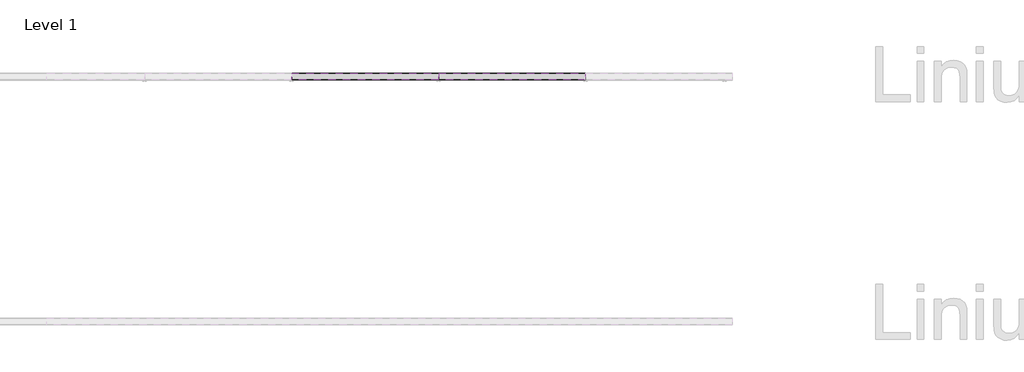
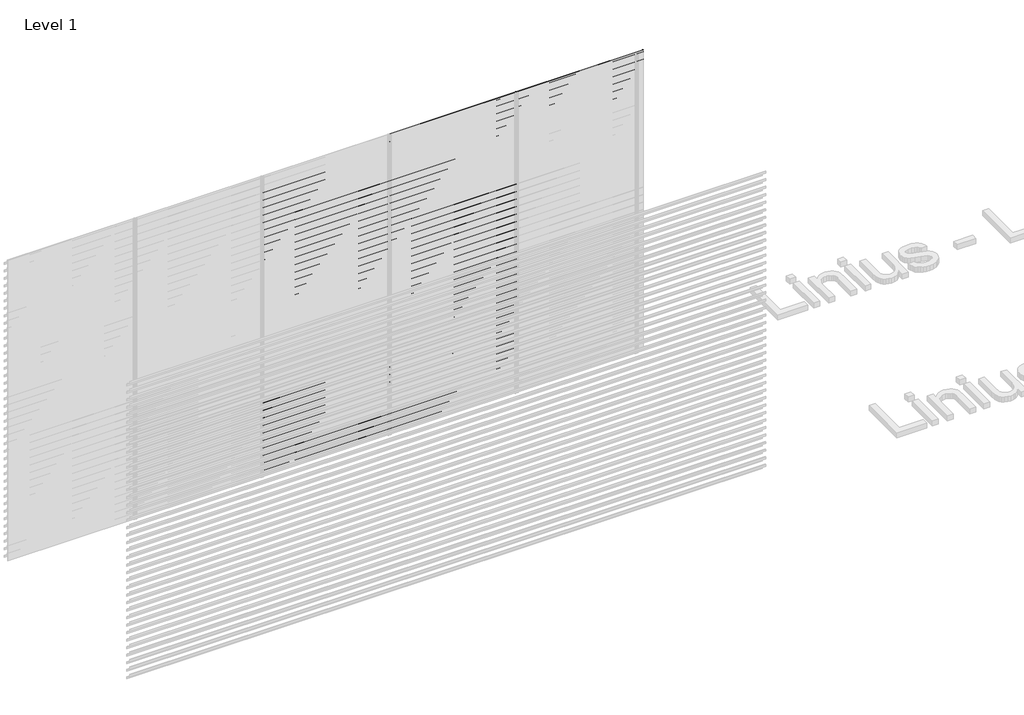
# One storey, part 53 of 55: 84 proxies.
"""IFC4 building model written with IfcOpenShell, lengths in millimetres."""

from ifc_helpers import new_model, si_unit, frame, origin, place, context, project, spatial, polyline, outline, extrude, element, save

model = new_model("IFC4")

# Units and contexts
model_context = context("Model", 3, world=origin())
ifc_project = project(units=[si_unit("LENGTHUNIT", "METRE", prefix="MILLI")], contexts=[model_context])

# Site, building, storey
site = spatial("IfcSite", under=ifc_project)
building = spatial("IfcBuilding", under=site)
storey = spatial("IfcBuildingStorey", under=building, Name="Level 1", Elevation=0.0)

# Proxies
placement = place(None, origin())
element("IfcBuildingElementProxy", 1, Name="Wall Sweeps", at=placement, inside=storey, context=model_context, shape_type="SweptSolid", body=[
    extrude(outline(polyline([(74035.8040136, 2793.5), (74035.8040136, 2773.5), (74034.5540136, 2774.2216933), (74034.5540136, 2792.7872415), (73980.8040136, 2830.3158044), (73980.8040136, 2850.0), (73982.0540136, 2850.0), (73982.0540136, 2831.0285629), (74035.8040136, 2793.5)])), frame((2866.6208097, 0.0, 0.0), z_axis=(1.0, 0.0, 0.0), x_axis=(0.0, 1.0, 0.0)), (0.0, 0.0, 1.0), 1199.9999999),
])
element("IfcBuildingElementProxy", 2, Name="Wall Sweeps", at=placement, inside=storey, context=model_context, shape_type="SweptSolid", body=[
    extrude(outline(polyline([(74035.8040136, 2718.5), (74035.8040136, 2698.5), (74034.5540136, 2699.2216933), (74034.5540136, 2717.7872415), (73980.8040136, 2755.3158044), (73980.8040136, 2775.0), (73982.0540136, 2775.0), (73982.0540136, 2756.0285629), (74035.8040136, 2718.5)])), frame((2866.6208097, 0.0, 0.0), z_axis=(1.0, 0.0, 0.0), x_axis=(0.0, 1.0, 0.0)), (0.0, 0.0, 1.0), 1199.9999999),
])
element("IfcBuildingElementProxy", 3, Name="Wall Sweeps", at=placement, inside=storey, context=model_context, shape_type="SweptSolid", body=[
    extrude(outline(polyline([(74035.8040136, 2643.5), (74035.8040136, 2623.5), (74034.5540136, 2624.2216933), (74034.5540136, 2642.7872415), (73980.8040136, 2680.3158044), (73980.8040136, 2700.0), (73982.0540136, 2700.0), (73982.0540136, 2681.0285629), (74035.8040136, 2643.5)])), frame((2866.6208097, 0.0, 0.0), z_axis=(1.0, 0.0, 0.0), x_axis=(0.0, 1.0, 0.0)), (0.0, 0.0, 1.0), 1199.9999999),
])
element("IfcBuildingElementProxy", 4, Name="Wall Sweeps", at=placement, inside=storey, context=model_context, shape_type="SweptSolid", body=[
    extrude(outline(polyline([(74035.8040136, 2568.5), (74035.8040136, 2548.5), (74034.5540136, 2549.2216933), (74034.5540136, 2567.7872415), (73980.8040136, 2605.3158044), (73980.8040136, 2625.0), (73982.0540136, 2625.0), (73982.0540136, 2606.0285629), (74035.8040136, 2568.5)])), frame((2866.6208097, 0.0, 0.0), z_axis=(1.0, 0.0, 0.0), x_axis=(0.0, 1.0, 0.0)), (0.0, 0.0, 1.0), 1199.9999999),
])
element("IfcBuildingElementProxy", 5, Name="Wall Sweeps", at=placement, inside=storey, context=model_context, shape_type="SweptSolid", body=[
    extrude(outline(polyline([(74035.8040136, 2493.5), (74035.8040136, 2473.5), (74034.5540136, 2474.2216933), (74034.5540136, 2492.7872415), (73980.8040136, 2530.3158044), (73980.8040136, 2550.0), (73982.0540136, 2550.0), (73982.0540136, 2531.0285629), (74035.8040136, 2493.5)])), frame((2866.6208097, 0.0, 0.0), z_axis=(1.0, 0.0, 0.0), x_axis=(0.0, 1.0, 0.0)), (0.0, 0.0, 1.0), 1199.9999999),
])
element("IfcBuildingElementProxy", 6, Name="Wall Sweeps", at=placement, inside=storey, context=model_context, shape_type="SweptSolid", body=[
    extrude(outline(polyline([(74035.8040136, 2418.5), (74035.8040136, 2398.5), (74034.5540136, 2399.2216933), (74034.5540136, 2417.7872415), (73980.8040136, 2455.3158044), (73980.8040136, 2475.0), (73982.0540136, 2475.0), (73982.0540136, 2456.0285629), (74035.8040136, 2418.5)])), frame((2866.6208097, 0.0, 0.0), z_axis=(1.0, 0.0, 0.0), x_axis=(0.0, 1.0, 0.0)), (0.0, 0.0, 1.0), 1199.9999999),
])
element("IfcBuildingElementProxy", 7, Name="Wall Sweeps", at=placement, inside=storey, context=model_context, shape_type="SweptSolid", body=[
    extrude(outline(polyline([(74035.8040136, 2343.5), (74035.8040136, 2323.5), (74034.5540136, 2324.2216933), (74034.5540136, 2342.7872415), (73980.8040136, 2380.3158044), (73980.8040136, 2400.0), (73982.0540136, 2400.0), (73982.0540136, 2381.0285629), (74035.8040136, 2343.5)])), frame((2866.6208097, 0.0, 0.0), z_axis=(1.0, 0.0, 0.0), x_axis=(0.0, 1.0, 0.0)), (0.0, 0.0, 1.0), 1199.9999999),
])
element("IfcBuildingElementProxy", 8, Name="Wall Sweeps", at=placement, inside=storey, context=model_context, shape_type="SweptSolid", body=[
    extrude(outline(polyline([(74035.8040136, 2268.5), (74035.8040136, 2248.5), (74034.5540136, 2249.2216933), (74034.5540136, 2267.7872415), (73980.8040136, 2305.3158044), (73980.8040136, 2325.0), (73982.0540136, 2325.0), (73982.0540136, 2306.0285629), (74035.8040136, 2268.5)])), frame((2866.6208097, 0.0, 0.0), z_axis=(1.0, 0.0, 0.0), x_axis=(0.0, 1.0, 0.0)), (0.0, 0.0, 1.0), 1199.9999999),
])
element("IfcBuildingElementProxy", 9, Name="Wall Sweeps", at=placement, inside=storey, context=model_context, shape_type="SweptSolid", body=[
    extrude(outline(polyline([(74035.8040136, 2193.5), (74035.8040136, 2173.5), (74034.5540136, 2174.2216933), (74034.5540136, 2192.7872415), (73980.8040136, 2230.3158044), (73980.8040136, 2250.0), (73982.0540136, 2250.0), (73982.0540136, 2231.0285629), (74035.8040136, 2193.5)])), frame((2866.6208097, 0.0, 0.0), z_axis=(1.0, 0.0, 0.0), x_axis=(0.0, 1.0, 0.0)), (0.0, 0.0, 1.0), 1199.9999999),
])
element("IfcBuildingElementProxy", 10, Name="Wall Sweeps", at=placement, inside=storey, context=model_context, shape_type="SweptSolid", body=[
    extrude(outline(polyline([(74035.8040136, 2118.5), (74035.8040136, 2098.5), (74034.5540136, 2099.2216933), (74034.5540136, 2117.7872415), (73980.8040136, 2155.3158044), (73980.8040136, 2175.0), (73982.0540136, 2175.0), (73982.0540136, 2156.0285629), (74035.8040136, 2118.5)])), frame((2866.6208097, 0.0, 0.0), z_axis=(1.0, 0.0, 0.0), x_axis=(0.0, 1.0, 0.0)), (0.0, 0.0, 1.0), 1199.9999999),
])
element("IfcBuildingElementProxy", 11, Name="Wall Sweeps", at=placement, inside=storey, context=model_context, shape_type="SweptSolid", body=[
    extrude(outline(polyline([(74035.8040136, 2043.5), (74035.8040136, 2023.5), (74034.5540136, 2024.2216933), (74034.5540136, 2042.7872415), (73980.8040136, 2080.3158044), (73980.8040136, 2100.0), (73982.0540136, 2100.0), (73982.0540136, 2081.0285629), (74035.8040136, 2043.5)])), frame((2866.6208097, 0.0, 0.0), z_axis=(1.0, 0.0, 0.0), x_axis=(0.0, 1.0, 0.0)), (0.0, 0.0, 1.0), 1199.9999999),
])
element("IfcBuildingElementProxy", 12, Name="Wall Sweeps", at=placement, inside=storey, context=model_context, shape_type="SweptSolid", body=[
    extrude(outline(polyline([(74035.8040136, 1968.5), (74035.8040136, 1948.5), (74034.5540136, 1949.2216933), (74034.5540136, 1967.7872415), (73980.8040136, 2005.3158044), (73980.8040136, 2025.0), (73982.0540136, 2025.0), (73982.0540136, 2006.0285629), (74035.8040136, 1968.5)])), frame((2866.6208097, 0.0, 0.0), z_axis=(1.0, 0.0, 0.0), x_axis=(0.0, 1.0, 0.0)), (0.0, 0.0, 1.0), 1199.9999999),
])
element("IfcBuildingElementProxy", 13, Name="Wall Sweeps", at=placement, inside=storey, context=model_context, shape_type="SweptSolid", body=[
    extrude(outline(polyline([(74035.8040136, 1893.5), (74035.8040136, 1873.5), (74034.5540136, 1874.2216933), (74034.5540136, 1892.7872415), (73980.8040136, 1930.3158044), (73980.8040136, 1950.0), (73982.0540136, 1950.0), (73982.0540136, 1931.0285629), (74035.8040136, 1893.5)])), frame((2866.6208097, 0.0, 0.0), z_axis=(1.0, 0.0, 0.0), x_axis=(0.0, 1.0, 0.0)), (0.0, 0.0, 1.0), 1199.9999999),
])
element("IfcBuildingElementProxy", 14, Name="Wall Sweeps", at=placement, inside=storey, context=model_context, shape_type="SweptSolid", body=[
    extrude(outline(polyline([(74035.8040136, 1818.5), (74035.8040136, 1798.5), (74034.5540136, 1799.2216933), (74034.5540136, 1817.7872415), (73980.8040136, 1855.3158044), (73980.8040136, 1875.0), (73982.0540136, 1875.0), (73982.0540136, 1856.0285629), (74035.8040136, 1818.5)])), frame((2866.6208097, 0.0, 0.0), z_axis=(1.0, 0.0, 0.0), x_axis=(0.0, 1.0, 0.0)), (0.0, 0.0, 1.0), 1199.9999999),
])
element("IfcBuildingElementProxy", 15, Name="Wall Sweeps", at=placement, inside=storey, context=model_context, shape_type="SweptSolid", body=[
    extrude(outline(polyline([(74035.8040136, 1743.5), (74035.8040136, 1723.5), (74034.5540136, 1724.2216933), (74034.5540136, 1742.7872415), (73980.8040136, 1780.3158044), (73980.8040136, 1800.0), (73982.0540136, 1800.0), (73982.0540136, 1781.0285629), (74035.8040136, 1743.5)])), frame((2866.6208097, 0.0, 0.0), z_axis=(1.0, 0.0, 0.0), x_axis=(0.0, 1.0, 0.0)), (0.0, 0.0, 1.0), 1199.9999999),
])
element("IfcBuildingElementProxy", 16, Name="Wall Sweeps", at=placement, inside=storey, context=model_context, shape_type="SweptSolid", body=[
    extrude(outline(polyline([(74035.8040136, 1668.5), (74035.8040136, 1648.5), (74034.5540136, 1649.2216933), (74034.5540136, 1667.7872415), (73980.8040136, 1705.3158044), (73980.8040136, 1725.0), (73982.0540136, 1725.0), (73982.0540136, 1706.0285629), (74035.8040136, 1668.5)])), frame((2866.6208097, 0.0, 0.0), z_axis=(1.0, 0.0, 0.0), x_axis=(0.0, 1.0, 0.0)), (0.0, 0.0, 1.0), 1199.9999999),
])
element("IfcBuildingElementProxy", 17, Name="Wall Sweeps", at=placement, inside=storey, context=model_context, shape_type="SweptSolid", body=[
    extrude(outline(polyline([(74035.8040136, 1593.5), (74035.8040136, 1573.5), (74034.5540136, 1574.2216933), (74034.5540136, 1592.7872415), (73980.8040136, 1630.3158044), (73980.8040136, 1650.0), (73982.0540136, 1650.0), (73982.0540136, 1631.0285629), (74035.8040136, 1593.5)])), frame((2866.6208097, 0.0, 0.0), z_axis=(1.0, 0.0, 0.0), x_axis=(0.0, 1.0, 0.0)), (0.0, 0.0, 1.0), 1199.9999999),
])
element("IfcBuildingElementProxy", 18, Name="Wall Sweeps", at=placement, inside=storey, context=model_context, shape_type="SweptSolid", body=[
    extrude(outline(polyline([(74035.8040136, 1518.5), (74035.8040136, 1498.5), (74034.5540136, 1499.2216933), (74034.5540136, 1517.7872415), (73980.8040136, 1555.3158044), (73980.8040136, 1575.0), (73982.0540136, 1575.0), (73982.0540136, 1556.0285629), (74035.8040136, 1518.5)])), frame((2866.6208097, 0.0, 0.0), z_axis=(1.0, 0.0, 0.0), x_axis=(0.0, 1.0, 0.0)), (0.0, 0.0, 1.0), 1199.9999999),
])
element("IfcBuildingElementProxy", 19, Name="Wall Sweeps", at=placement, inside=storey, context=model_context, shape_type="SweptSolid", body=[
    extrude(outline(polyline([(74035.8040136, 1443.5), (74035.8040136, 1423.5), (74034.5540136, 1424.2216933), (74034.5540136, 1442.7872415), (73980.8040136, 1480.3158044), (73980.8040136, 1500.0), (73982.0540136, 1500.0), (73982.0540136, 1481.0285629), (74035.8040136, 1443.5)])), frame((2866.6208097, 0.0, 0.0), z_axis=(1.0, 0.0, 0.0), x_axis=(0.0, 1.0, 0.0)), (0.0, 0.0, 1.0), 1199.9999999),
])
element("IfcBuildingElementProxy", 20, Name="Wall Sweeps", at=placement, inside=storey, context=model_context, shape_type="SweptSolid", body=[
    extrude(outline(polyline([(74035.8040136, 1368.5), (74035.8040136, 1348.5), (74034.5540136, 1349.2216933), (74034.5540136, 1367.7872415), (73980.8040136, 1405.3158044), (73980.8040136, 1425.0), (73982.0540136, 1425.0), (73982.0540136, 1406.0285629), (74035.8040136, 1368.5)])), frame((2866.6208097, 0.0, 0.0), z_axis=(1.0, 0.0, 0.0), x_axis=(0.0, 1.0, 0.0)), (0.0, 0.0, 1.0), 1199.9999999),
])
element("IfcBuildingElementProxy", 21, Name="Wall Sweeps", at=placement, inside=storey, context=model_context, shape_type="SweptSolid", body=[
    extrude(outline(polyline([(74035.8040136, 1293.5), (74035.8040136, 1273.5), (74034.5540136, 1274.2216933), (74034.5540136, 1292.7872415), (73980.8040136, 1330.3158044), (73980.8040136, 1350.0), (73982.0540136, 1350.0), (73982.0540136, 1331.0285629), (74035.8040136, 1293.5)])), frame((2866.6208097, 0.0, 0.0), z_axis=(1.0, 0.0, 0.0), x_axis=(0.0, 1.0, 0.0)), (0.0, 0.0, 1.0), 1199.9999999),
])
element("IfcBuildingElementProxy", 22, Name="Wall Sweeps", at=placement, inside=storey, context=model_context, shape_type="SweptSolid", body=[
    extrude(outline(polyline([(74035.8040136, 1218.5), (74035.8040136, 1198.5), (74034.5540136, 1199.2216933), (74034.5540136, 1217.7872415), (73980.8040136, 1255.3158044), (73980.8040136, 1275.0), (73982.0540136, 1275.0), (73982.0540136, 1256.0285629), (74035.8040136, 1218.5)])), frame((2866.6208097, 0.0, 0.0), z_axis=(1.0, 0.0, 0.0), x_axis=(0.0, 1.0, 0.0)), (0.0, 0.0, 1.0), 1199.9999999),
])
element("IfcBuildingElementProxy", 23, Name="Wall Sweeps", at=placement, inside=storey, context=model_context, shape_type="SweptSolid", body=[
    extrude(outline(polyline([(74035.8040136, 1143.5), (74035.8040136, 1123.5), (74034.5540136, 1124.2216933), (74034.5540136, 1142.7872415), (73980.8040136, 1180.3158044), (73980.8040136, 1200.0), (73982.0540136, 1200.0), (73982.0540136, 1181.0285629), (74035.8040136, 1143.5)])), frame((2866.6208097, 0.0, 0.0), z_axis=(1.0, 0.0, 0.0), x_axis=(0.0, 1.0, 0.0)), (0.0, 0.0, 1.0), 1199.9999999),
])
element("IfcBuildingElementProxy", 24, Name="Wall Sweeps", at=placement, inside=storey, context=model_context, shape_type="SweptSolid", body=[
    extrude(outline(polyline([(74035.8040136, 1068.5), (74035.8040136, 1048.5), (74034.5540136, 1049.2216933), (74034.5540136, 1067.7872415), (73980.8040136, 1105.3158044), (73980.8040136, 1125.0), (73982.0540136, 1125.0), (73982.0540136, 1106.0285629), (74035.8040136, 1068.5)])), frame((2866.6208097, 0.0, 0.0), z_axis=(1.0, 0.0, 0.0), x_axis=(0.0, 1.0, 0.0)), (0.0, 0.0, 1.0), 1199.9999999),
])
element("IfcBuildingElementProxy", 25, Name="Wall Sweeps", at=placement, inside=storey, context=model_context, shape_type="SweptSolid", body=[
    extrude(outline(polyline([(74035.8040136, 993.5), (74035.8040136, 973.5), (74034.5540136, 974.2216933), (74034.5540136, 992.7872415), (73980.8040136, 1030.3158044), (73980.8040136, 1050.0), (73982.0540136, 1050.0), (73982.0540136, 1031.0285629), (74035.8040136, 993.5)])), frame((2866.6208097, 0.0, 0.0), z_axis=(1.0, 0.0, 0.0), x_axis=(0.0, 1.0, 0.0)), (0.0, 0.0, 1.0), 1199.9999999),
])
element("IfcBuildingElementProxy", 26, Name="Wall Sweeps", at=placement, inside=storey, context=model_context, shape_type="SweptSolid", body=[
    extrude(outline(polyline([(74035.8040136, 918.5), (74035.8040136, 898.5), (74034.5540136, 899.2216933), (74034.5540136, 917.7872415), (73980.8040136, 955.3158044), (73980.8040136, 975.0), (73982.0540136, 975.0), (73982.0540136, 956.0285629), (74035.8040136, 918.5)])), frame((2866.6208097, 0.0, 0.0), z_axis=(1.0, 0.0, 0.0), x_axis=(0.0, 1.0, 0.0)), (0.0, 0.0, 1.0), 1199.9999999),
])
element("IfcBuildingElementProxy", 27, Name="Wall Sweeps", at=placement, inside=storey, context=model_context, shape_type="SweptSolid", body=[
    extrude(outline(polyline([(74035.8040136, 843.5), (74035.8040136, 823.5), (74034.5540136, 824.2216933), (74034.5540136, 842.7872415), (73980.8040136, 880.3158044), (73980.8040136, 900.0), (73982.0540136, 900.0), (73982.0540136, 881.0285629), (74035.8040136, 843.5)])), frame((2866.6208097, 0.0, 0.0), z_axis=(1.0, 0.0, 0.0), x_axis=(0.0, 1.0, 0.0)), (0.0, 0.0, 1.0), 1199.9999999),
])
element("IfcBuildingElementProxy", 28, Name="Wall Sweeps", at=placement, inside=storey, context=model_context, shape_type="SweptSolid", body=[
    extrude(outline(polyline([(74035.8040136, 768.5), (74035.8040136, 748.5), (74034.5540136, 749.2216933), (74034.5540136, 767.7872415), (73980.8040136, 805.3158044), (73980.8040136, 825.0), (73982.0540136, 825.0), (73982.0540136, 806.0285629), (74035.8040136, 768.5)])), frame((2866.6208097, 0.0, 0.0), z_axis=(1.0, 0.0, 0.0), x_axis=(0.0, 1.0, 0.0)), (0.0, 0.0, 1.0), 1199.9999999),
])
element("IfcBuildingElementProxy", 29, Name="Wall Sweeps", at=placement, inside=storey, context=model_context, shape_type="SweptSolid", body=[
    extrude(outline(polyline([(74035.8040136, 693.5), (74035.8040136, 673.5), (74034.5540136, 674.2216933), (74034.5540136, 692.7872415), (73980.8040136, 730.3158044), (73980.8040136, 750.0), (73982.0540136, 750.0), (73982.0540136, 731.0285629), (74035.8040136, 693.5)])), frame((2866.6208097, 0.0, 0.0), z_axis=(1.0, 0.0, 0.0), x_axis=(0.0, 1.0, 0.0)), (0.0, 0.0, 1.0), 1199.9999999),
])
element("IfcBuildingElementProxy", 30, Name="Wall Sweeps", at=placement, inside=storey, context=model_context, shape_type="SweptSolid", body=[
    extrude(outline(polyline([(74035.8040136, 618.5), (74035.8040136, 598.5), (74034.5540136, 599.2216933), (74034.5540136, 617.7872415), (73980.8040136, 655.3158044), (73980.8040136, 675.0), (73982.0540136, 675.0), (73982.0540136, 656.0285629), (74035.8040136, 618.5)])), frame((2866.6208097, 0.0, 0.0), z_axis=(1.0, 0.0, 0.0), x_axis=(0.0, 1.0, 0.0)), (0.0, 0.0, 1.0), 1199.9999999),
])
element("IfcBuildingElementProxy", 31, Name="Wall Sweeps", at=placement, inside=storey, context=model_context, shape_type="SweptSolid", body=[
    extrude(outline(polyline([(74035.8040136, 543.5), (74035.8040136, 523.5), (74034.5540136, 524.2216933), (74034.5540136, 542.7872415), (73980.8040136, 580.3158044), (73980.8040136, 600.0), (73982.0540136, 600.0), (73982.0540136, 581.0285629), (74035.8040136, 543.5)])), frame((2866.6208097, 0.0, 0.0), z_axis=(1.0, 0.0, 0.0), x_axis=(0.0, 1.0, 0.0)), (0.0, 0.0, 1.0), 1199.9999999),
])
element("IfcBuildingElementProxy", 32, Name="Wall Sweeps", at=placement, inside=storey, context=model_context, shape_type="SweptSolid", body=[
    extrude(outline(polyline([(74035.8040136, 468.5), (74035.8040136, 448.5), (74034.5540136, 449.2216933), (74034.5540136, 467.7872415), (73980.8040136, 505.3158044), (73980.8040136, 525.0), (73982.0540136, 525.0), (73982.0540136, 506.0285629), (74035.8040136, 468.5)])), frame((2866.6208097, 0.0, 0.0), z_axis=(1.0, 0.0, 0.0), x_axis=(0.0, 1.0, 0.0)), (0.0, 0.0, 1.0), 1199.9999999),
])
element("IfcBuildingElementProxy", 33, Name="Wall Sweeps", at=placement, inside=storey, context=model_context, shape_type="SweptSolid", body=[
    extrude(outline(polyline([(74035.8040136, 393.5), (74035.8040136, 373.5), (74034.5540136, 374.2216933), (74034.5540136, 392.7872415), (73980.8040136, 430.3158044), (73980.8040136, 450.0), (73982.0540136, 450.0), (73982.0540136, 431.0285629), (74035.8040136, 393.5)])), frame((2866.6208097, 0.0, 0.0), z_axis=(1.0, 0.0, 0.0), x_axis=(0.0, 1.0, 0.0)), (0.0, 0.0, 1.0), 1199.9999999),
])
element("IfcBuildingElementProxy", 34, Name="Wall Sweeps", at=placement, inside=storey, context=model_context, shape_type="SweptSolid", body=[
    extrude(outline(polyline([(74035.8040136, 318.5), (74035.8040136, 298.5), (74034.5540136, 299.2216933), (74034.5540136, 317.7872415), (73980.8040136, 355.3158044), (73980.8040136, 375.0), (73982.0540136, 375.0), (73982.0540136, 356.0285629), (74035.8040136, 318.5)])), frame((2866.6208097, 0.0, 0.0), z_axis=(1.0, 0.0, 0.0), x_axis=(0.0, 1.0, 0.0)), (0.0, 0.0, 1.0), 1199.9999999),
])
element("IfcBuildingElementProxy", 35, Name="Wall Sweeps", at=placement, inside=storey, context=model_context, shape_type="SweptSolid", body=[
    extrude(outline(polyline([(74035.8040136, 243.5), (74035.8040136, 223.5), (74034.5540136, 224.2216933), (74034.5540136, 242.7872415), (73980.8040136, 280.3158044), (73980.8040136, 300.0), (73982.0540136, 300.0), (73982.0540136, 281.0285629), (74035.8040136, 243.5)])), frame((2866.6208097, 0.0, 0.0), z_axis=(1.0, 0.0, 0.0), x_axis=(0.0, 1.0, 0.0)), (0.0, 0.0, 1.0), 1199.9999999),
])
element("IfcBuildingElementProxy", 36, Name="Wall Sweeps", at=placement, inside=storey, context=model_context, shape_type="SweptSolid", body=[
    extrude(outline(polyline([(74035.8040136, 168.5), (74035.8040136, 148.5), (74034.5540136, 149.2216933), (74034.5540136, 167.7872415), (73980.8040136, 205.3158044), (73980.8040136, 225.0), (73982.0540136, 225.0), (73982.0540136, 206.0285629), (74035.8040136, 168.5)])), frame((2866.6208097, 0.0, 0.0), z_axis=(1.0, 0.0, 0.0), x_axis=(0.0, 1.0, 0.0)), (0.0, 0.0, 1.0), 1199.9999999),
])
element("IfcBuildingElementProxy", 37, Name="Wall Sweeps", at=placement, inside=storey, context=model_context, shape_type="SweptSolid", body=[
    extrude(outline(polyline([(74035.8040136, 93.5), (74035.8040136, 73.5), (74034.5540136, 74.2216933), (74034.5540136, 92.7872415), (73980.8040136, 130.3158044), (73980.8040136, 150.0), (73982.0540136, 150.0), (73982.0540136, 131.0285629), (74035.8040136, 93.5)])), frame((2866.6208097, 0.0, 0.0), z_axis=(1.0, 0.0, 0.0), x_axis=(0.0, 1.0, 0.0)), (0.0, 0.0, 1.0), 1199.9999999),
])
element("IfcBuildingElementProxy", 38, Name="Wall Sweeps", at=placement, inside=storey, context=model_context, shape_type="SweptSolid", body=[
    extrude(outline(polyline([(74035.8040136, 18.5), (74035.8040136, -1.5), (74034.5540136, -0.7783067), (74034.5540136, 17.7872415), (73980.8040136, 55.3158044), (73980.8040136, 75.0), (73982.0540136, 75.0), (73982.0540136, 56.0285629), (74035.8040136, 18.5)])), frame((2866.6208097, 0.0, 0.0), z_axis=(1.0, 0.0, 0.0), x_axis=(0.0, 1.0, 0.0)), (0.0, 0.0, 1.0), 1199.9999999),
])
element("IfcBuildingElementProxy", 39, Name="Wall Sweeps", at=placement, inside=storey, context=model_context, shape_type="SweptSolid", body=[
    extrude(outline(polyline([(74035.8040136, 2943.5), (74035.8040136, 2923.5), (74034.5540136, 2924.2216933), (74034.5540136, 2942.7872415), (73980.8040136, 2980.3158044), (73980.8040136, 3000.0), (73982.0540136, 3000.0), (73982.0540136, 2981.0285629), (74035.8040136, 2943.5)])), frame((5266.6208095, 0.0, 0.0), z_axis=(1.0, 0.0, 0.0), x_axis=(0.0, 1.0, 0.0)), (0.0, 0.0, 1.0), 1200.0000002),
])
element("IfcBuildingElementProxy", 40, Name="Wall Sweeps", at=placement, inside=storey, context=model_context, shape_type="SweptSolid", body=[
    extrude(outline(polyline([(74035.8040136, 2868.5), (74035.8040136, 2848.5), (74034.5540136, 2849.2216933), (74034.5540136, 2867.7872415), (73980.8040136, 2905.3158044), (73980.8040136, 2925.0), (73982.0540136, 2925.0), (73982.0540136, 2906.0285629), (74035.8040136, 2868.5)])), frame((5266.6208095, 0.0, 0.0), z_axis=(1.0, 0.0, 0.0), x_axis=(0.0, 1.0, 0.0)), (0.0, 0.0, 1.0), 1200.0000002),
])
element("IfcBuildingElementProxy", 41, Name="Wall Sweeps", at=placement, inside=storey, context=model_context, shape_type="SweptSolid", body=[
    extrude(outline(polyline([(74035.8040136, 2793.5), (74035.8040136, 2773.5), (74034.5540136, 2774.2216933), (74034.5540136, 2792.7872415), (73980.8040136, 2830.3158044), (73980.8040136, 2850.0), (73982.0540136, 2850.0), (73982.0540136, 2831.0285629), (74035.8040136, 2793.5)])), frame((5266.6208095, 0.0, 0.0), z_axis=(1.0, 0.0, 0.0), x_axis=(0.0, 1.0, 0.0)), (0.0, 0.0, 1.0), 1200.0000002),
])
element("IfcBuildingElementProxy", 42, Name="Wall Sweeps", at=placement, inside=storey, context=model_context, shape_type="SweptSolid", body=[
    extrude(outline(polyline([(74035.8040136, 2718.5), (74035.8040136, 2698.5), (74034.5540136, 2699.2216933), (74034.5540136, 2717.7872415), (73980.8040136, 2755.3158044), (73980.8040136, 2775.0), (73982.0540136, 2775.0), (73982.0540136, 2756.0285629), (74035.8040136, 2718.5)])), frame((5266.6208095, 0.0, 0.0), z_axis=(1.0, 0.0, 0.0), x_axis=(0.0, 1.0, 0.0)), (0.0, 0.0, 1.0), 1200.0000002),
])
element("IfcBuildingElementProxy", 43, Name="Wall Sweeps", at=placement, inside=storey, context=model_context, shape_type="SweptSolid", body=[
    extrude(outline(polyline([(74035.8040136, 2643.5), (74035.8040136, 2623.5), (74034.5540136, 2624.2216933), (74034.5540136, 2642.7872415), (73980.8040136, 2680.3158044), (73980.8040136, 2700.0), (73982.0540136, 2700.0), (73982.0540136, 2681.0285629), (74035.8040136, 2643.5)])), frame((5266.6208095, 0.0, 0.0), z_axis=(1.0, 0.0, 0.0), x_axis=(0.0, 1.0, 0.0)), (0.0, 0.0, 1.0), 1200.0000002),
])
element("IfcBuildingElementProxy", 44, Name="Wall Sweeps", at=placement, inside=storey, context=model_context, shape_type="SweptSolid", body=[
    extrude(outline(polyline([(74035.8040136, 2568.5), (74035.8040136, 2548.5), (74034.5540136, 2549.2216933), (74034.5540136, 2567.7872415), (73980.8040136, 2605.3158044), (73980.8040136, 2625.0), (73982.0540136, 2625.0), (73982.0540136, 2606.0285629), (74035.8040136, 2568.5)])), frame((5266.6208095, 0.0, 0.0), z_axis=(1.0, 0.0, 0.0), x_axis=(0.0, 1.0, 0.0)), (0.0, 0.0, 1.0), 1200.0000002),
])
element("IfcBuildingElementProxy", 45, Name="Wall Sweeps", at=placement, inside=storey, context=model_context, shape_type="SweptSolid", body=[
    extrude(outline(polyline([(74035.8040136, 2943.5), (74035.8040136, 2923.5), (74034.5540136, 2924.2216933), (74034.5540136, 2942.7872415), (73980.8040136, 2980.3158044), (73980.8040136, 3000.0), (73982.0540136, 3000.0), (73982.0540136, 2981.0285629), (74035.8040136, 2943.5)])), frame((4066.6208096, 0.0, 0.0), z_axis=(1.0, 0.0, 0.0), x_axis=(0.0, 1.0, 0.0)), (0.0, 0.0, 1.0), 1199.9999999),
])
element("IfcBuildingElementProxy", 46, Name="Wall Sweeps", at=placement, inside=storey, context=model_context, shape_type="SweptSolid", body=[
    extrude(outline(polyline([(74035.8040136, 2868.5), (74035.8040136, 2848.5), (74034.5540136, 2849.2216933), (74034.5540136, 2867.7872415), (73980.8040136, 2905.3158044), (73980.8040136, 2925.0), (73982.0540136, 2925.0), (73982.0540136, 2906.0285629), (74035.8040136, 2868.5)])), frame((4066.6208096, 0.0, 0.0), z_axis=(1.0, 0.0, 0.0), x_axis=(0.0, 1.0, 0.0)), (0.0, 0.0, 1.0), 1199.9999999),
])
element("IfcBuildingElementProxy", 47, Name="Wall Sweeps", at=placement, inside=storey, context=model_context, shape_type="SweptSolid", body=[
    extrude(outline(polyline([(74035.8040136, 2793.5), (74035.8040136, 2773.5), (74034.5540136, 2774.2216933), (74034.5540136, 2792.7872415), (73980.8040136, 2830.3158044), (73980.8040136, 2850.0), (73982.0540136, 2850.0), (73982.0540136, 2831.0285629), (74035.8040136, 2793.5)])), frame((4066.6208096, 0.0, 0.0), z_axis=(1.0, 0.0, 0.0), x_axis=(0.0, 1.0, 0.0)), (0.0, 0.0, 1.0), 1199.9999999),
])
element("IfcBuildingElementProxy", 48, Name="Wall Sweeps", at=placement, inside=storey, context=model_context, shape_type="SweptSolid", body=[
    extrude(outline(polyline([(74035.8040136, 2718.5), (74035.8040136, 2698.5), (74034.5540136, 2699.2216933), (74034.5540136, 2717.7872415), (73980.8040136, 2755.3158044), (73980.8040136, 2775.0), (73982.0540136, 2775.0), (73982.0540136, 2756.0285629), (74035.8040136, 2718.5)])), frame((4066.6208096, 0.0, 0.0), z_axis=(1.0, 0.0, 0.0), x_axis=(0.0, 1.0, 0.0)), (0.0, 0.0, 1.0), 1199.9999999),
])
element("IfcBuildingElementProxy", 49, Name="Wall Sweeps", at=placement, inside=storey, context=model_context, shape_type="SweptSolid", body=[
    extrude(outline(polyline([(74035.8040136, 2643.5), (74035.8040136, 2623.5), (74034.5540136, 2624.2216933), (74034.5540136, 2642.7872415), (73980.8040136, 2680.3158044), (73980.8040136, 2700.0), (73982.0540136, 2700.0), (73982.0540136, 2681.0285629), (74035.8040136, 2643.5)])), frame((4066.6208096, 0.0, 0.0), z_axis=(1.0, 0.0, 0.0), x_axis=(0.0, 1.0, 0.0)), (0.0, 0.0, 1.0), 1199.9999999),
])
element("IfcBuildingElementProxy", 50, Name="Wall Sweeps", at=placement, inside=storey, context=model_context, shape_type="SweptSolid", body=[
    extrude(outline(polyline([(74035.8040136, 2568.5), (74035.8040136, 2548.5), (74034.5540136, 2549.2216933), (74034.5540136, 2567.7872415), (73980.8040136, 2605.3158044), (73980.8040136, 2625.0), (73982.0540136, 2625.0), (73982.0540136, 2606.0285629), (74035.8040136, 2568.5)])), frame((4066.6208096, 0.0, 0.0), z_axis=(1.0, 0.0, 0.0), x_axis=(0.0, 1.0, 0.0)), (0.0, 0.0, 1.0), 1199.9999999),
])
element("IfcBuildingElementProxy", 51, Name="Wall Sweeps", at=placement, inside=storey, context=model_context, shape_type="SweptSolid", body=[
    extrude(outline(polyline([(74035.8040136, 2493.5), (74035.8040136, 2473.5), (74034.5540136, 2474.2216933), (74034.5540136, 2492.7872415), (73980.8040136, 2530.3158044), (73980.8040136, 2550.0), (73982.0540136, 2550.0), (73982.0540136, 2531.0285629), (74035.8040136, 2493.5)])), frame((4066.6208096, 0.0, 0.0), z_axis=(1.0, 0.0, 0.0), x_axis=(0.0, 1.0, 0.0)), (0.0, 0.0, 1.0), 1199.9999999),
])
element("IfcBuildingElementProxy", 52, Name="Wall Sweeps", at=placement, inside=storey, context=model_context, shape_type="SweptSolid", body=[
    extrude(outline(polyline([(74035.8040136, 2418.5), (74035.8040136, 2398.5), (74034.5540136, 2399.2216933), (74034.5540136, 2417.7872415), (73980.8040136, 2455.3158044), (73980.8040136, 2475.0), (73982.0540136, 2475.0), (73982.0540136, 2456.0285629), (74035.8040136, 2418.5)])), frame((4066.6208096, 0.0, 0.0), z_axis=(1.0, 0.0, 0.0), x_axis=(0.0, 1.0, 0.0)), (0.0, 0.0, 1.0), 1199.9999999),
])
element("IfcBuildingElementProxy", 53, Name="Wall Sweeps", at=placement, inside=storey, context=model_context, shape_type="SweptSolid", body=[
    extrude(outline(polyline([(74035.8040136, 2343.5), (74035.8040136, 2323.5), (74034.5540136, 2324.2216933), (74034.5540136, 2342.7872415), (73980.8040136, 2380.3158044), (73980.8040136, 2400.0), (73982.0540136, 2400.0), (73982.0540136, 2381.0285629), (74035.8040136, 2343.5)])), frame((4066.6208096, 0.0, 0.0), z_axis=(1.0, 0.0, 0.0), x_axis=(0.0, 1.0, 0.0)), (0.0, 0.0, 1.0), 1199.9999999),
])
element("IfcBuildingElementProxy", 54, Name="Wall Sweeps", at=placement, inside=storey, context=model_context, shape_type="SweptSolid", body=[
    extrude(outline(polyline([(74035.8040136, 2268.5), (74035.8040136, 2248.5), (74034.5540136, 2249.2216933), (74034.5540136, 2267.7872415), (73980.8040136, 2305.3158044), (73980.8040136, 2325.0), (73982.0540136, 2325.0), (73982.0540136, 2306.0285629), (74035.8040136, 2268.5)])), frame((4066.6208096, 0.0, 0.0), z_axis=(1.0, 0.0, 0.0), x_axis=(0.0, 1.0, 0.0)), (0.0, 0.0, 1.0), 1199.9999999),
])
element("IfcBuildingElementProxy", 55, Name="Wall Sweeps", at=placement, inside=storey, context=model_context, shape_type="SweptSolid", body=[
    extrude(outline(polyline([(74035.8040136, 2193.5), (74035.8040136, 2173.5), (74034.5540136, 2174.2216933), (74034.5540136, 2192.7872415), (73980.8040136, 2230.3158044), (73980.8040136, 2250.0), (73982.0540136, 2250.0), (73982.0540136, 2231.0285629), (74035.8040136, 2193.5)])), frame((4066.6208096, 0.0, 0.0), z_axis=(1.0, 0.0, 0.0), x_axis=(0.0, 1.0, 0.0)), (0.0, 0.0, 1.0), 1199.9999999),
])
element("IfcBuildingElementProxy", 56, Name="Wall Sweeps", at=placement, inside=storey, context=model_context, shape_type="SweptSolid", body=[
    extrude(outline(polyline([(74035.8040136, 2118.5), (74035.8040136, 2098.5), (74034.5540136, 2099.2216933), (74034.5540136, 2117.7872415), (73980.8040136, 2155.3158044), (73980.8040136, 2175.0), (73982.0540136, 2175.0), (73982.0540136, 2156.0285629), (74035.8040136, 2118.5)])), frame((4066.6208096, 0.0, 0.0), z_axis=(1.0, 0.0, 0.0), x_axis=(0.0, 1.0, 0.0)), (0.0, 0.0, 1.0), 1199.9999999),
])
element("IfcBuildingElementProxy", 57, Name="Wall Sweeps", at=placement, inside=storey, context=model_context, shape_type="SweptSolid", body=[
    extrude(outline(polyline([(74035.8040136, 2043.5), (74035.8040136, 2023.5), (74034.5540136, 2024.2216933), (74034.5540136, 2042.7872415), (73980.8040136, 2080.3158044), (73980.8040136, 2100.0), (73982.0540136, 2100.0), (73982.0540136, 2081.0285629), (74035.8040136, 2043.5)])), frame((4066.6208096, 0.0, 0.0), z_axis=(1.0, 0.0, 0.0), x_axis=(0.0, 1.0, 0.0)), (0.0, 0.0, 1.0), 1199.9999999),
])
element("IfcBuildingElementProxy", 58, Name="Wall Sweeps", at=placement, inside=storey, context=model_context, shape_type="SweptSolid", body=[
    extrude(outline(polyline([(74035.8040136, 1968.5), (74035.8040136, 1948.5), (74034.5540136, 1949.2216933), (74034.5540136, 1967.7872415), (73980.8040136, 2005.3158044), (73980.8040136, 2025.0), (73982.0540136, 2025.0), (73982.0540136, 2006.0285629), (74035.8040136, 1968.5)])), frame((4066.6208096, 0.0, 0.0), z_axis=(1.0, 0.0, 0.0), x_axis=(0.0, 1.0, 0.0)), (0.0, 0.0, 1.0), 1199.9999999),
])
element("IfcBuildingElementProxy", 59, Name="Wall Sweeps", at=placement, inside=storey, context=model_context, shape_type="SweptSolid", body=[
    extrude(outline(polyline([(74035.8040136, 1893.5), (74035.8040136, 1873.5), (74034.5540136, 1874.2216933), (74034.5540136, 1892.7872415), (73980.8040136, 1930.3158044), (73980.8040136, 1950.0), (73982.0540136, 1950.0), (73982.0540136, 1931.0285629), (74035.8040136, 1893.5)])), frame((4066.6208096, 0.0, 0.0), z_axis=(1.0, 0.0, 0.0), x_axis=(0.0, 1.0, 0.0)), (0.0, 0.0, 1.0), 1199.9999999),
])
element("IfcBuildingElementProxy", 60, Name="Wall Sweeps", at=placement, inside=storey, context=model_context, shape_type="SweptSolid", body=[
    extrude(outline(polyline([(74035.8040136, 1818.5), (74035.8040136, 1798.5), (74034.5540136, 1799.2216933), (74034.5540136, 1817.7872415), (73980.8040136, 1855.3158044), (73980.8040136, 1875.0), (73982.0540136, 1875.0), (73982.0540136, 1856.0285629), (74035.8040136, 1818.5)])), frame((4066.6208096, 0.0, 0.0), z_axis=(1.0, 0.0, 0.0), x_axis=(0.0, 1.0, 0.0)), (0.0, 0.0, 1.0), 1199.9999999),
])
element("IfcBuildingElementProxy", 61, Name="Wall Sweeps", at=placement, inside=storey, context=model_context, shape_type="SweptSolid", body=[
    extrude(outline(polyline([(74035.8040136, 1743.5), (74035.8040136, 1723.5), (74034.5540136, 1724.2216933), (74034.5540136, 1742.7872415), (73980.8040136, 1780.3158044), (73980.8040136, 1800.0), (73982.0540136, 1800.0), (73982.0540136, 1781.0285629), (74035.8040136, 1743.5)])), frame((4066.6208096, 0.0, 0.0), z_axis=(1.0, 0.0, 0.0), x_axis=(0.0, 1.0, 0.0)), (0.0, 0.0, 1.0), 1199.9999999),
])
element("IfcBuildingElementProxy", 62, Name="Wall Sweeps", at=placement, inside=storey, context=model_context, shape_type="SweptSolid", body=[
    extrude(outline(polyline([(74035.8040136, 1668.5), (74035.8040136, 1648.5), (74034.5540136, 1649.2216933), (74034.5540136, 1667.7872415), (73980.8040136, 1705.3158044), (73980.8040136, 1725.0), (73982.0540136, 1725.0), (73982.0540136, 1706.0285629), (74035.8040136, 1668.5)])), frame((4066.6208096, 0.0, 0.0), z_axis=(1.0, 0.0, 0.0), x_axis=(0.0, 1.0, 0.0)), (0.0, 0.0, 1.0), 1199.9999999),
])
element("IfcBuildingElementProxy", 63, Name="Wall Sweeps", at=placement, inside=storey, context=model_context, shape_type="SweptSolid", body=[
    extrude(outline(polyline([(74035.8040136, 1593.5), (74035.8040136, 1573.5), (74034.5540136, 1574.2216933), (74034.5540136, 1592.7872415), (73980.8040136, 1630.3158044), (73980.8040136, 1650.0), (73982.0540136, 1650.0), (73982.0540136, 1631.0285629), (74035.8040136, 1593.5)])), frame((4066.6208096, 0.0, 0.0), z_axis=(1.0, 0.0, 0.0), x_axis=(0.0, 1.0, 0.0)), (0.0, 0.0, 1.0), 1199.9999999),
])
element("IfcBuildingElementProxy", 64, Name="Wall Sweeps", at=placement, inside=storey, context=model_context, shape_type="SweptSolid", body=[
    extrude(outline(polyline([(74035.8040136, 1518.5), (74035.8040136, 1498.5), (74034.5540136, 1499.2216933), (74034.5540136, 1517.7872415), (73980.8040136, 1555.3158044), (73980.8040136, 1575.0), (73982.0540136, 1575.0), (73982.0540136, 1556.0285629), (74035.8040136, 1518.5)])), frame((4066.6208096, 0.0, 0.0), z_axis=(1.0, 0.0, 0.0), x_axis=(0.0, 1.0, 0.0)), (0.0, 0.0, 1.0), 1199.9999999),
])
element("IfcBuildingElementProxy", 65, Name="Wall Sweeps", at=placement, inside=storey, context=model_context, shape_type="SweptSolid", body=[
    extrude(outline(polyline([(74035.8040136, 1443.5), (74035.8040136, 1423.5), (74034.5540136, 1424.2216933), (74034.5540136, 1442.7872415), (73980.8040136, 1480.3158044), (73980.8040136, 1500.0), (73982.0540136, 1500.0), (73982.0540136, 1481.0285629), (74035.8040136, 1443.5)])), frame((4066.6208096, 0.0, 0.0), z_axis=(1.0, 0.0, 0.0), x_axis=(0.0, 1.0, 0.0)), (0.0, 0.0, 1.0), 1199.9999999),
])
element("IfcBuildingElementProxy", 66, Name="Wall Sweeps", at=placement, inside=storey, context=model_context, shape_type="SweptSolid", body=[
    extrude(outline(polyline([(74035.8040136, 1368.5), (74035.8040136, 1348.5), (74034.5540136, 1349.2216933), (74034.5540136, 1367.7872415), (73980.8040136, 1405.3158044), (73980.8040136, 1425.0), (73982.0540136, 1425.0), (73982.0540136, 1406.0285629), (74035.8040136, 1368.5)])), frame((4066.6208096, 0.0, 0.0), z_axis=(1.0, 0.0, 0.0), x_axis=(0.0, 1.0, 0.0)), (0.0, 0.0, 1.0), 1199.9999999),
])
element("IfcBuildingElementProxy", 67, Name="Wall Sweeps", at=placement, inside=storey, context=model_context, shape_type="SweptSolid", body=[
    extrude(outline(polyline([(74035.8040136, 1293.5), (74035.8040136, 1273.5), (74034.5540136, 1274.2216933), (74034.5540136, 1292.7872415), (73980.8040136, 1330.3158044), (73980.8040136, 1350.0), (73982.0540136, 1350.0), (73982.0540136, 1331.0285629), (74035.8040136, 1293.5)])), frame((4066.6208096, 0.0, 0.0), z_axis=(1.0, 0.0, 0.0), x_axis=(0.0, 1.0, 0.0)), (0.0, 0.0, 1.0), 1199.9999999),
])
element("IfcBuildingElementProxy", 68, Name="Wall Sweeps", at=placement, inside=storey, context=model_context, shape_type="SweptSolid", body=[
    extrude(outline(polyline([(74035.8040136, 1218.5), (74035.8040136, 1198.5), (74034.5540136, 1199.2216933), (74034.5540136, 1217.7872415), (73980.8040136, 1255.3158044), (73980.8040136, 1275.0), (73982.0540136, 1275.0), (73982.0540136, 1256.0285629), (74035.8040136, 1218.5)])), frame((4066.6208096, 0.0, 0.0), z_axis=(1.0, 0.0, 0.0), x_axis=(0.0, 1.0, 0.0)), (0.0, 0.0, 1.0), 1199.9999999),
])
element("IfcBuildingElementProxy", 69, Name="Wall Sweeps", at=placement, inside=storey, context=model_context, shape_type="SweptSolid", body=[
    extrude(outline(polyline([(74035.8040136, 1143.5), (74035.8040136, 1123.5), (74034.5540136, 1124.2216933), (74034.5540136, 1142.7872415), (73980.8040136, 1180.3158044), (73980.8040136, 1200.0), (73982.0540136, 1200.0), (73982.0540136, 1181.0285629), (74035.8040136, 1143.5)])), frame((4066.6208096, 0.0, 0.0), z_axis=(1.0, 0.0, 0.0), x_axis=(0.0, 1.0, 0.0)), (0.0, 0.0, 1.0), 1199.9999999),
])
element("IfcBuildingElementProxy", 70, Name="Wall Sweeps", at=placement, inside=storey, context=model_context, shape_type="SweptSolid", body=[
    extrude(outline(polyline([(74035.8040136, 1068.5), (74035.8040136, 1048.5), (74034.5540136, 1049.2216933), (74034.5540136, 1067.7872415), (73980.8040136, 1105.3158044), (73980.8040136, 1125.0), (73982.0540136, 1125.0), (73982.0540136, 1106.0285629), (74035.8040136, 1068.5)])), frame((4066.6208096, 0.0, 0.0), z_axis=(1.0, 0.0, 0.0), x_axis=(0.0, 1.0, 0.0)), (0.0, 0.0, 1.0), 1199.9999999),
])
element("IfcBuildingElementProxy", 71, Name="Wall Sweeps", at=placement, inside=storey, context=model_context, shape_type="SweptSolid", body=[
    extrude(outline(polyline([(74035.8040136, 993.5), (74035.8040136, 973.5), (74034.5540136, 974.2216933), (74034.5540136, 992.7872415), (73980.8040136, 1030.3158044), (73980.8040136, 1050.0), (73982.0540136, 1050.0), (73982.0540136, 1031.0285629), (74035.8040136, 993.5)])), frame((4066.6208096, 0.0, 0.0), z_axis=(1.0, 0.0, 0.0), x_axis=(0.0, 1.0, 0.0)), (0.0, 0.0, 1.0), 1199.9999999),
])
element("IfcBuildingElementProxy", 72, Name="Wall Sweeps", at=placement, inside=storey, context=model_context, shape_type="SweptSolid", body=[
    extrude(outline(polyline([(74035.8040136, 918.5), (74035.8040136, 898.5), (74034.5540136, 899.2216933), (74034.5540136, 917.7872415), (73980.8040136, 955.3158044), (73980.8040136, 975.0), (73982.0540136, 975.0), (73982.0540136, 956.0285629), (74035.8040136, 918.5)])), frame((4066.6208096, 0.0, 0.0), z_axis=(1.0, 0.0, 0.0), x_axis=(0.0, 1.0, 0.0)), (0.0, 0.0, 1.0), 1199.9999999),
])
element("IfcBuildingElementProxy", 73, Name="Wall Sweeps", at=placement, inside=storey, context=model_context, shape_type="SweptSolid", body=[
    extrude(outline(polyline([(74035.8040136, 843.5), (74035.8040136, 823.5), (74034.5540136, 824.2216933), (74034.5540136, 842.7872415), (73980.8040136, 880.3158044), (73980.8040136, 900.0), (73982.0540136, 900.0), (73982.0540136, 881.0285629), (74035.8040136, 843.5)])), frame((4066.6208096, 0.0, 0.0), z_axis=(1.0, 0.0, 0.0), x_axis=(0.0, 1.0, 0.0)), (0.0, 0.0, 1.0), 1199.9999999),
])
element("IfcBuildingElementProxy", 74, Name="Wall Sweeps", at=placement, inside=storey, context=model_context, shape_type="SweptSolid", body=[
    extrude(outline(polyline([(74035.8040136, 768.5), (74035.8040136, 748.5), (74034.5540136, 749.2216933), (74034.5540136, 767.7872415), (73980.8040136, 805.3158044), (73980.8040136, 825.0), (73982.0540136, 825.0), (73982.0540136, 806.0285629), (74035.8040136, 768.5)])), frame((4066.6208096, 0.0, 0.0), z_axis=(1.0, 0.0, 0.0), x_axis=(0.0, 1.0, 0.0)), (0.0, 0.0, 1.0), 1199.9999999),
])
element("IfcBuildingElementProxy", 75, Name="Wall Sweeps", at=placement, inside=storey, context=model_context, shape_type="SweptSolid", body=[
    extrude(outline(polyline([(74035.8040136, 693.5), (74035.8040136, 673.5), (74034.5540136, 674.2216933), (74034.5540136, 692.7872415), (73980.8040136, 730.3158044), (73980.8040136, 750.0), (73982.0540136, 750.0), (73982.0540136, 731.0285629), (74035.8040136, 693.5)])), frame((4066.6208096, 0.0, 0.0), z_axis=(1.0, 0.0, 0.0), x_axis=(0.0, 1.0, 0.0)), (0.0, 0.0, 1.0), 1199.9999999),
])
element("IfcBuildingElementProxy", 76, Name="Wall Sweeps", at=placement, inside=storey, context=model_context, shape_type="SweptSolid", body=[
    extrude(outline(polyline([(74035.8040136, 618.5), (74035.8040136, 598.5), (74034.5540136, 599.2216933), (74034.5540136, 617.7872415), (73980.8040136, 655.3158044), (73980.8040136, 675.0), (73982.0540136, 675.0), (73982.0540136, 656.0285629), (74035.8040136, 618.5)])), frame((4066.6208096, 0.0, 0.0), z_axis=(1.0, 0.0, 0.0), x_axis=(0.0, 1.0, 0.0)), (0.0, 0.0, 1.0), 1199.9999999),
])
element("IfcBuildingElementProxy", 77, Name="Wall Sweeps", at=placement, inside=storey, context=model_context, shape_type="SweptSolid", body=[
    extrude(outline(polyline([(74035.8040136, 543.5), (74035.8040136, 523.5), (74034.5540136, 524.2216933), (74034.5540136, 542.7872415), (73980.8040136, 580.3158044), (73980.8040136, 600.0), (73982.0540136, 600.0), (73982.0540136, 581.0285629), (74035.8040136, 543.5)])), frame((4066.6208096, 0.0, 0.0), z_axis=(1.0, 0.0, 0.0), x_axis=(0.0, 1.0, 0.0)), (0.0, 0.0, 1.0), 1199.9999999),
])
element("IfcBuildingElementProxy", 78, Name="Wall Sweeps", at=placement, inside=storey, context=model_context, shape_type="SweptSolid", body=[
    extrude(outline(polyline([(74035.8040136, 468.5), (74035.8040136, 448.5), (74034.5540136, 449.2216933), (74034.5540136, 467.7872415), (73980.8040136, 505.3158044), (73980.8040136, 525.0), (73982.0540136, 525.0), (73982.0540136, 506.0285629), (74035.8040136, 468.5)])), frame((4066.6208096, 0.0, 0.0), z_axis=(1.0, 0.0, 0.0), x_axis=(0.0, 1.0, 0.0)), (0.0, 0.0, 1.0), 1199.9999999),
])
element("IfcBuildingElementProxy", 79, Name="Wall Sweeps", at=placement, inside=storey, context=model_context, shape_type="SweptSolid", body=[
    extrude(outline(polyline([(74035.8040136, 393.5), (74035.8040136, 373.5), (74034.5540136, 374.2216933), (74034.5540136, 392.7872415), (73980.8040136, 430.3158044), (73980.8040136, 450.0), (73982.0540136, 450.0), (73982.0540136, 431.0285629), (74035.8040136, 393.5)])), frame((4066.6208096, 0.0, 0.0), z_axis=(1.0, 0.0, 0.0), x_axis=(0.0, 1.0, 0.0)), (0.0, 0.0, 1.0), 1199.9999999),
])
element("IfcBuildingElementProxy", 80, Name="Wall Sweeps", at=placement, inside=storey, context=model_context, shape_type="SweptSolid", body=[
    extrude(outline(polyline([(74035.8040136, 318.5), (74035.8040136, 298.5), (74034.5540136, 299.2216933), (74034.5540136, 317.7872415), (73980.8040136, 355.3158044), (73980.8040136, 375.0), (73982.0540136, 375.0), (73982.0540136, 356.0285629), (74035.8040136, 318.5)])), frame((4066.6208096, 0.0, 0.0), z_axis=(1.0, 0.0, 0.0), x_axis=(0.0, 1.0, 0.0)), (0.0, 0.0, 1.0), 1199.9999999),
])
element("IfcBuildingElementProxy", 81, Name="Wall Sweeps", at=placement, inside=storey, context=model_context, shape_type="SweptSolid", body=[
    extrude(outline(polyline([(74035.8040136, 243.5), (74035.8040136, 223.5), (74034.5540136, 224.2216933), (74034.5540136, 242.7872415), (73980.8040136, 280.3158044), (73980.8040136, 300.0), (73982.0540136, 300.0), (73982.0540136, 281.0285629), (74035.8040136, 243.5)])), frame((4066.6208096, 0.0, 0.0), z_axis=(1.0, 0.0, 0.0), x_axis=(0.0, 1.0, 0.0)), (0.0, 0.0, 1.0), 1199.9999999),
])
element("IfcBuildingElementProxy", 82, Name="Wall Sweeps", at=placement, inside=storey, context=model_context, shape_type="SweptSolid", body=[
    extrude(outline(polyline([(74035.8040136, 168.5), (74035.8040136, 148.5), (74034.5540136, 149.2216933), (74034.5540136, 167.7872415), (73980.8040136, 205.3158044), (73980.8040136, 225.0), (73982.0540136, 225.0), (73982.0540136, 206.0285629), (74035.8040136, 168.5)])), frame((4066.6208096, 0.0, 0.0), z_axis=(1.0, 0.0, 0.0), x_axis=(0.0, 1.0, 0.0)), (0.0, 0.0, 1.0), 1199.9999999),
])
element("IfcBuildingElementProxy", 83, Name="Wall Sweeps", at=placement, inside=storey, context=model_context, shape_type="SweptSolid", body=[
    extrude(outline(polyline([(74035.8040136, 93.5), (74035.8040136, 73.5), (74034.5540136, 74.2216933), (74034.5540136, 92.7872415), (73980.8040136, 130.3158044), (73980.8040136, 150.0), (73982.0540136, 150.0), (73982.0540136, 131.0285629), (74035.8040136, 93.5)])), frame((4066.6208096, 0.0, 0.0), z_axis=(1.0, 0.0, 0.0), x_axis=(0.0, 1.0, 0.0)), (0.0, 0.0, 1.0), 1199.9999999),
])
element("IfcBuildingElementProxy", 84, Name="Wall Sweeps", at=placement, inside=storey, context=model_context, shape_type="SweptSolid", body=[
    extrude(outline(polyline([(74035.8040136, 18.5), (74035.8040136, -1.5), (74034.5540136, -0.7783067), (74034.5540136, 17.7872415), (73980.8040136, 55.3158044), (73980.8040136, 75.0), (73982.0540136, 75.0), (73982.0540136, 56.0285629), (74035.8040136, 18.5)])), frame((4066.6208096, 0.0, 0.0), z_axis=(1.0, 0.0, 0.0), x_axis=(0.0, 1.0, 0.0)), (0.0, 0.0, 1.0), 1199.9999999),
])

save(model, "model.ifc")
